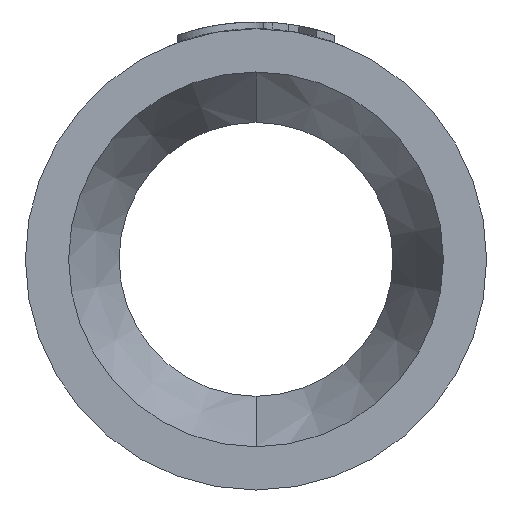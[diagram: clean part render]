
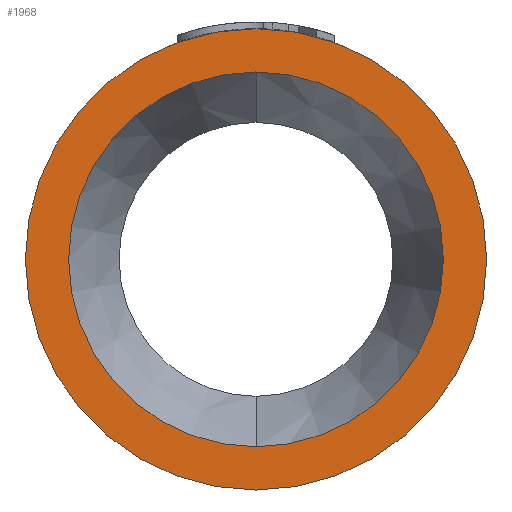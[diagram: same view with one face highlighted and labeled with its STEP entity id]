
A CAD part, left-side view. The second image highlights one B-rep face of the part: STEP entity #1968.
In plain terms, the highlighted planar face has unit normal (-1, 0, 0).
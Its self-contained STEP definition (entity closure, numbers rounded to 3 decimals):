
#22 = AXIS2_PLACEMENT_3D ( 'NONE', #272, #527, #385 ) ;
#99 = DIRECTION ( 'NONE',  ( 0., 0., -1. ) ) ;
#129 = AXIS2_PLACEMENT_3D ( 'NONE', #1105, #1094, #1078 ) ;
#140 = VERTEX_POINT ( 'NONE', #181 ) ;
#181 = CARTESIAN_POINT ( 'NONE',  ( 0., 0., 13. ) ) ;
#183 = PLANE ( 'NONE',  #934 ) ;
#272 = CARTESIAN_POINT ( 'NONE',  ( 0., 0., 0. ) ) ;
#340 = CARTESIAN_POINT ( 'NONE',  ( 0., 0., -13. ) ) ;
#385 = DIRECTION ( 'NONE',  ( 0., 0., 1. ) ) ;
#461 = EDGE_CURVE ( 'NONE', #1281, #1995, #2476, .T. ) ;
#527 = DIRECTION ( 'NONE',  ( -1., 0., 0. ) ) ;
#609 = FACE_OUTER_BOUND ( 'NONE', #2370, .T. ) ;
#725 = CARTESIAN_POINT ( 'NONE',  ( 0., 0., 16. ) ) ;
#762 = AXIS2_PLACEMENT_3D ( 'NONE', #2556, #2526, #2498 ) ;
#847 = AXIS2_PLACEMENT_3D ( 'NONE', #2693, #2728, #2706 ) ;
#934 = AXIS2_PLACEMENT_3D ( 'NONE', #1600, #1817, #99 ) ;
#950 = EDGE_CURVE ( 'NONE', #2175, #140, #1828, .T. ) ;
#1025 = ORIENTED_EDGE ( 'NONE', *, *, #1714, .F. ) ;
#1078 = DIRECTION ( 'NONE',  ( 0., 0., 1. ) ) ;
#1094 = DIRECTION ( 'NONE',  ( -1., 0., 0. ) ) ;
#1105 = CARTESIAN_POINT ( 'NONE',  ( 0., 0., 0. ) ) ;
#1135 = ORIENTED_EDGE ( 'NONE', *, *, #1729, .T. ) ;
#1213 = ORIENTED_EDGE ( 'NONE', *, *, #461, .T. ) ;
#1281 = VERTEX_POINT ( 'NONE', #725 ) ;
#1509 = EDGE_LOOP ( 'NONE', ( #1025, #2216 ) ) ;
#1600 = CARTESIAN_POINT ( 'NONE',  ( 0., 13., 0. ) ) ;
#1714 = EDGE_CURVE ( 'NONE', #140, #2175, #3095, .T. ) ;
#1729 = EDGE_CURVE ( 'NONE', #1995, #1281, #2554, .T. ) ;
#1787 = CARTESIAN_POINT ( 'NONE',  ( 0., 0., -16. ) ) ;
#1817 = DIRECTION ( 'NONE',  ( 1., 0., 0. ) ) ;
#1828 = CIRCLE ( 'NONE', #762, 13. ) ;
#1968 = ADVANCED_FACE ( 'NONE', ( #2307, #609 ), #183, .F. ) ;
#1995 = VERTEX_POINT ( 'NONE', #1787 ) ;
#2175 = VERTEX_POINT ( 'NONE', #340 ) ;
#2216 = ORIENTED_EDGE ( 'NONE', *, *, #950, .F. ) ;
#2307 = FACE_BOUND ( 'NONE', #1509, .T. ) ;
#2370 = EDGE_LOOP ( 'NONE', ( #1213, #1135 ) ) ;
#2476 = CIRCLE ( 'NONE', #847, 16. ) ;
#2498 = DIRECTION ( 'NONE',  ( 0., 0., 1. ) ) ;
#2526 = DIRECTION ( 'NONE',  ( -1., 0., 0. ) ) ;
#2554 = CIRCLE ( 'NONE', #22, 16. ) ;
#2556 = CARTESIAN_POINT ( 'NONE',  ( 0., 0., 0. ) ) ;
#2693 = CARTESIAN_POINT ( 'NONE',  ( 0., 0., 0. ) ) ;
#2706 = DIRECTION ( 'NONE',  ( 0., 0., 1. ) ) ;
#2728 = DIRECTION ( 'NONE',  ( -1., 0., 0. ) ) ;
#3095 = CIRCLE ( 'NONE', #129, 13. ) ;
